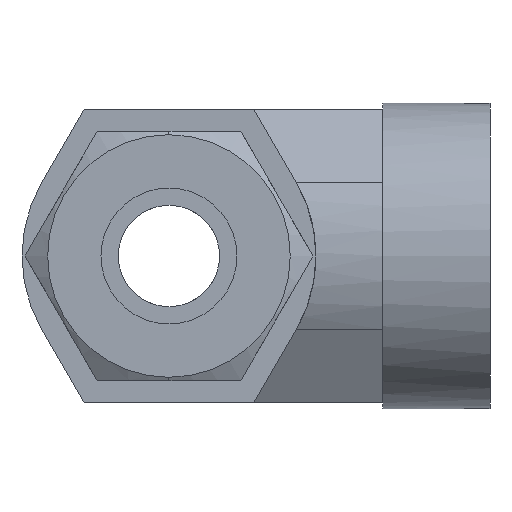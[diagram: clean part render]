
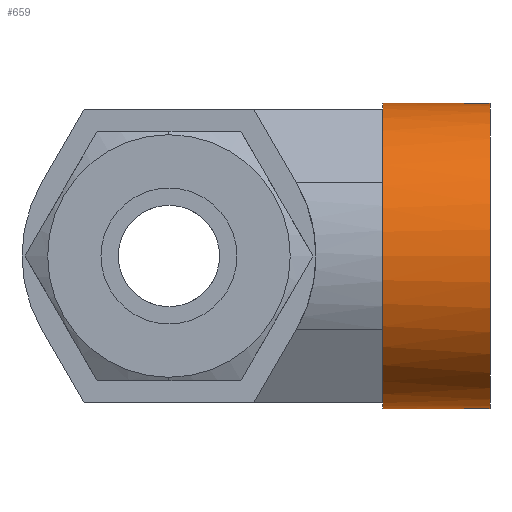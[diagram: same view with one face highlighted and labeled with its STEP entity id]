
A CAD part, left-side view. The second image highlights one B-rep face of the part: STEP entity #659.
In plain terms, the highlighted cylindrical face has radius 10.7 mm (diameter 21.4 mm), a partial arc.
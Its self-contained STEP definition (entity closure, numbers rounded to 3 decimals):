
#3 = VERTEX_POINT ( 'NONE', #847 ) ;
#4 = VERTEX_POINT ( 'NONE', #846 ) ;
#23 = VERTEX_POINT ( 'NONE', #858 ) ;
#59 = EDGE_CURVE ( 'NONE', #69, #23, #973, .T. ) ;
#68 = VERTEX_POINT ( 'NONE', #1009 ) ;
#69 = VERTEX_POINT ( 'NONE', #1008 ) ;
#71 = EDGE_CURVE ( 'NONE', #68, #72, #1007, .T. ) ;
#72 = VERTEX_POINT ( 'NONE', #1003 ) ;
#589 = ORIENTED_EDGE ( 'NONE', *, *, #2773, .T. ) ;
#590 = ORIENTED_EDGE ( 'NONE', *, *, #599, .T. ) ;
#591 = EDGE_CURVE ( 'NONE', #23, #3, #2011, .T. ) ;
#599 = EDGE_CURVE ( 'NONE', #4, #2784, #2003, .T. ) ;
#644 = ORIENTED_EDGE ( 'NONE', *, *, #2783, .T. ) ;
#645 = ORIENTED_EDGE ( 'NONE', *, *, #658, .T. ) ;
#658 = EDGE_CURVE ( 'NONE', #2791, #72, #2060, .T. ) ;
#659 = ADVANCED_FACE ( 'NONE', ( #2052 ), #2051, .T. ) ;
#660 = EDGE_LOOP ( 'NONE', ( #661, #662, #664, #665, #589, #590, #644, #645 ) ) ;
#661 = ORIENTED_EDGE ( 'NONE', *, *, #71, .F. ) ;
#662 = ORIENTED_EDGE ( 'NONE', *, *, #663, .F. ) ;
#663 = EDGE_CURVE ( 'NONE', #69, #68, #2107, .T. ) ;
#664 = ORIENTED_EDGE ( 'NONE', *, *, #59, .T. ) ;
#665 = ORIENTED_EDGE ( 'NONE', *, *, #591, .T. ) ;
#846 = CARTESIAN_POINT ( 'NONE',  ( -7.471, -15., 7.66 ) ) ;
#847 = CARTESIAN_POINT ( 'NONE',  ( -2.898, -15., 10.3 ) ) ;
#858 = CARTESIAN_POINT ( 'NONE',  ( 0., -15., 10.7 ) ) ;
#970 = DIRECTION ( 'NONE',  ( 0., 1., 0. ) ) ;
#971 = VECTOR ( 'NONE', #970, 1000. ) ;
#972 = CARTESIAN_POINT ( 'NONE',  ( 0., -22.5, 10.7 ) ) ;
#973 = LINE ( 'NONE', #972, #971 ) ;
#1003 = CARTESIAN_POINT ( 'NONE',  ( 0., -15., -10.7 ) ) ;
#1004 = DIRECTION ( 'NONE',  ( 0., 1., 0. ) ) ;
#1005 = VECTOR ( 'NONE', #1004, 1000. ) ;
#1006 = CARTESIAN_POINT ( 'NONE',  ( 0., -22.5, -10.7 ) ) ;
#1007 = LINE ( 'NONE', #1006, #1005 ) ;
#1008 = CARTESIAN_POINT ( 'NONE',  ( 0., -22.5, 10.7 ) ) ;
#1009 = CARTESIAN_POINT ( 'NONE',  ( 0., -22.5, -10.7 ) ) ;
#1798 = DIRECTION ( 'NONE',  ( 0., 0., 1. ) ) ;
#1996 = DIRECTION ( 'NONE',  ( 0., 0., -1. ) ) ;
#1997 = DIRECTION ( 'NONE',  ( 0., -1., 0. ) ) ;
#1998 = CARTESIAN_POINT ( 'NONE',  ( 0., -15., 0. ) ) ;
#1999 = AXIS2_PLACEMENT_3D ( 'NONE', #1998, #1997, #1996 ) ;
#2003 = CIRCLE ( 'NONE', #1999, 10.7 ) ;
#2007 = DIRECTION ( 'NONE',  ( 0., 0., -1. ) ) ;
#2008 = DIRECTION ( 'NONE',  ( 0., -1., 0. ) ) ;
#2009 = CARTESIAN_POINT ( 'NONE',  ( 0., -15., 0. ) ) ;
#2010 = AXIS2_PLACEMENT_3D ( 'NONE', #2009, #2008, #2007 ) ;
#2011 = CIRCLE ( 'NONE', #2010, 10.7 ) ;
#2046 = DIRECTION ( 'NONE',  ( 0., 1., 0. ) ) ;
#2047 = CARTESIAN_POINT ( 'NONE',  ( 0., -22.5, 0. ) ) ;
#2048 = AXIS2_PLACEMENT_3D ( 'NONE', #2047, #2046, #1798 ) ;
#2051 = CYLINDRICAL_SURFACE ( 'NONE', #2048, 10.7 ) ;
#2052 = FACE_OUTER_BOUND ( 'NONE', #660, .T. ) ;
#2053 = DIRECTION ( 'NONE',  ( 0., 0., -1. ) ) ;
#2054 = DIRECTION ( 'NONE',  ( 0., -1., 0. ) ) ;
#2055 = CARTESIAN_POINT ( 'NONE',  ( 0., -15., 0. ) ) ;
#2056 = AXIS2_PLACEMENT_3D ( 'NONE', #2055, #2054, #2053 ) ;
#2060 = CIRCLE ( 'NONE', #2056, 10.7 ) ;
#2103 = DIRECTION ( 'NONE',  ( 0., 0., -1. ) ) ;
#2104 = DIRECTION ( 'NONE',  ( 0., -1., 0. ) ) ;
#2105 = CARTESIAN_POINT ( 'NONE',  ( 0., -22.5, 0. ) ) ;
#2106 = AXIS2_PLACEMENT_3D ( 'NONE', #2105, #2104, #2103 ) ;
#2107 = CIRCLE ( 'NONE', #2106, 10.7 ) ;
#2418 = DIRECTION ( 'NONE',  ( 0., 0., -1. ) ) ;
#2419 = DIRECTION ( 'NONE',  ( 0., -1., 0. ) ) ;
#2420 = CARTESIAN_POINT ( 'NONE',  ( 0., -15., 0. ) ) ;
#2421 = AXIS2_PLACEMENT_3D ( 'NONE', #2420, #2419, #2418 ) ;
#2422 = CIRCLE ( 'NONE', #2421, 10.7 ) ;
#2449 = CARTESIAN_POINT ( 'NONE',  ( -2.898, -15., -10.3 ) ) ;
#2455 = CARTESIAN_POINT ( 'NONE',  ( -7.471, -15., -7.66 ) ) ;
#2456 = DIRECTION ( 'NONE',  ( 0., 0., -1. ) ) ;
#2457 = DIRECTION ( 'NONE',  ( 0., -1., 0. ) ) ;
#2458 = CARTESIAN_POINT ( 'NONE',  ( 0., -15., 0. ) ) ;
#2459 = AXIS2_PLACEMENT_3D ( 'NONE', #2458, #2457, #2456 ) ;
#2460 = CIRCLE ( 'NONE', #2459, 10.7 ) ;
#2773 = EDGE_CURVE ( 'NONE', #3, #4, #2422, .T. ) ;
#2783 = EDGE_CURVE ( 'NONE', #2784, #2791, #2460, .T. ) ;
#2784 = VERTEX_POINT ( 'NONE', #2455 ) ;
#2791 = VERTEX_POINT ( 'NONE', #2449 ) ;
